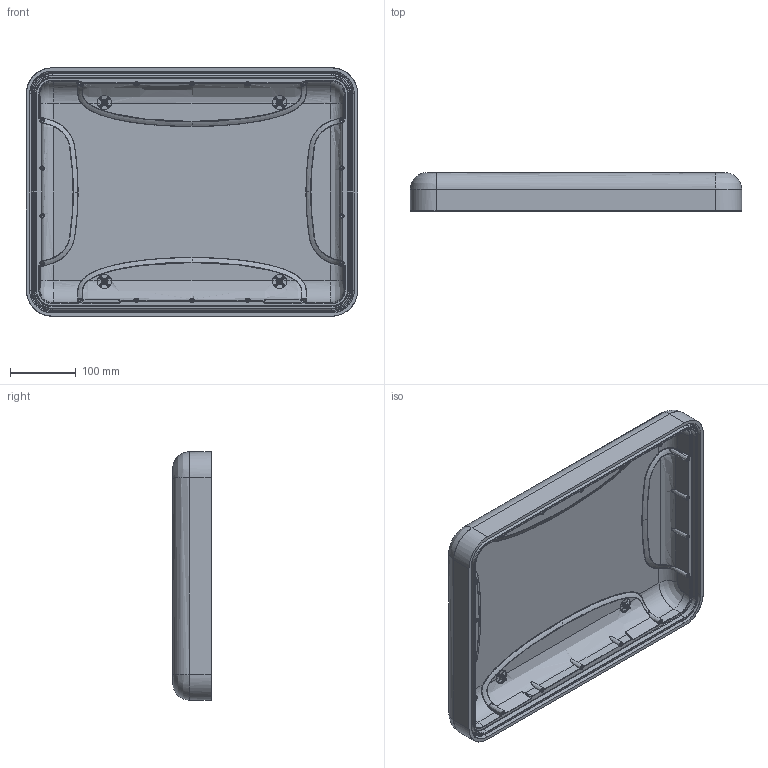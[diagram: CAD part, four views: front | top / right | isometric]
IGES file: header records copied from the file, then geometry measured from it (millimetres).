
Start section: SolidWorks IGES file using analytic representation for surfaces
Global section: file name: C:\Working Folder\918 933 acc panel\933\Inside Surfaces\933_top_INNER SURFACES.IGS; native system: SolidWorks 2015; preprocessor: SolidWorks 2015; author: MKeighan; date: 160504.135829; units: inch
Bounding box: 502.04 x 58.14 x 376.31 mm (x, y, z)
Surface area: 546981.6 mm2 (no closed solid volume)
Topology: 0 solids, 0 shells, 1252 faces, 13612 edges, 13606 vertices
Faces by surface type: bspline 915, revolution 337
